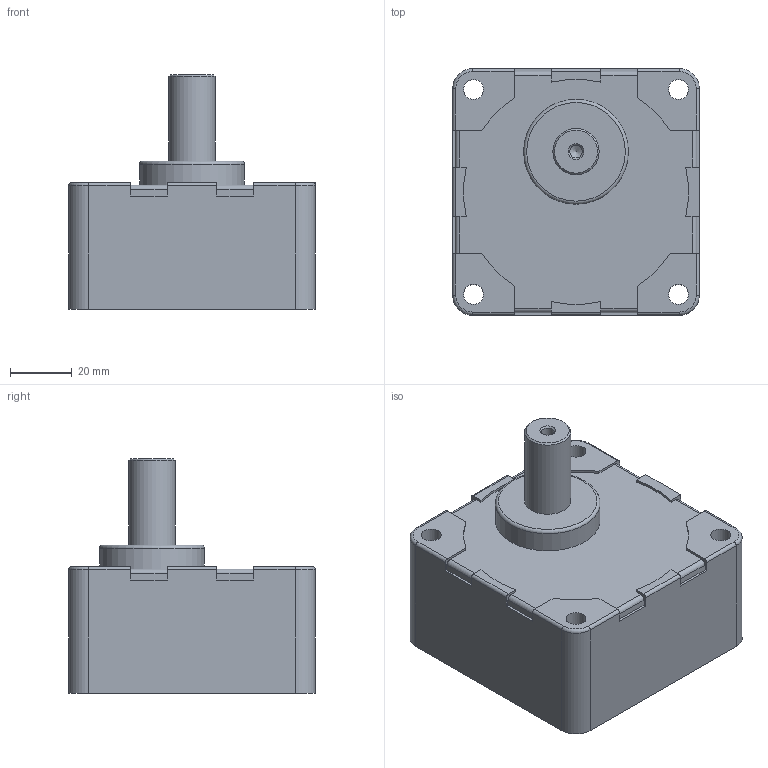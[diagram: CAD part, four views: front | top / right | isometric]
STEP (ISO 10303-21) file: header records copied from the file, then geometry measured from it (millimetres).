
FILE_DESCRIPTION(/* description */ (''),/* implementation_level */ '2;1');
FILE_NAME(/* name */ 'E:\도면작업\2016\0704) 미주향 SG 도면\3D GEAR HEAD\SG8SA5~25.stp',/* time_stamp */ '2016-07-22T14:03:25+09:00',/* author */ ('jy-jung'),/* organization */ (''),/* preprocessor_version */ 'ST-DEVELOPER v15.6',/* originating_system */ 'Autodesk Inventor 2015',/* authorisation */ '');
FILE_SCHEMA (('AUTOMOTIVE_DESIGN { 1 0 10303 214 3 1 1 }'));
Length unit declared in the file: millimetre
Products named in the file (1): SG8SA5~25
Bounding box: 80 x 80 x 76 mm (x, y, z)
Volume: 252576 mm3; surface area: 31594.4 mm2
Topology: 1 solids, 1 shells, 100 faces, 268 edges, 174 vertices
Faces by surface type: plane 50, cylinder 40, cone 5, torus 5
Full cylindrical faces by diameter (mm): 4.134 x1, 6.5 x4, 7.5 x1, 15 x1, 34 x1, 73 x1
Entity records: 3085 total; most frequent: DIRECTION 543, CARTESIAN_POINT 526, ORIENTED_EDGE 504, EDGE_CURVE 252, AXIS2_PLACEMENT_3D 190, VERTEX_POINT 173, LINE 163, VECTOR 163
